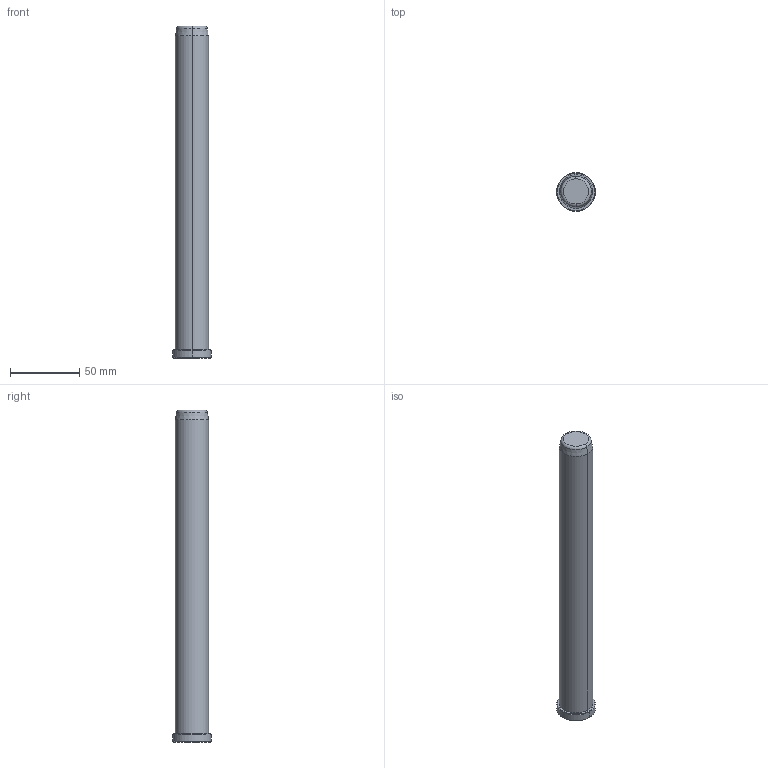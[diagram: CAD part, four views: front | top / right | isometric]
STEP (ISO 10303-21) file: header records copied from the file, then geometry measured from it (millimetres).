
FILE_DESCRIPTION((''),'2;1');
FILE_NAME('B81824240','2018-01-06T',('MANU'),(''),'PRO/ENGINEER BY PARAMETRIC TECHNOLOGY CORPORATION, 2012130','PRO/ENGINEER BY PARAMETRIC TECHNOLOGY CORPORATION, 2012130','');
FILE_SCHEMA(('CONFIG_CONTROL_DESIGN'));
Length unit declared in the file: millimetre
Products named in the file (1): B81824240
Bounding box: 28 x 28 x 240 mm (x, y, z)
Volume: 109180.3 mm3; surface area: 19203.1 mm2
Topology: 1 solids, 1 shells, 15 faces, 28 edges, 16 vertices
Faces by surface type: cone 6, cylinder 4, plane 3, torus 2
Entity records: 414 total; most frequent: DIRECTION 76, CARTESIAN_POINT 59, ORIENTED_EDGE 56, AXIS2_PLACEMENT_3D 33, EDGE_CURVE 28, CIRCLE 18, VERTEX_POINT 16, EDGE_LOOP 16
